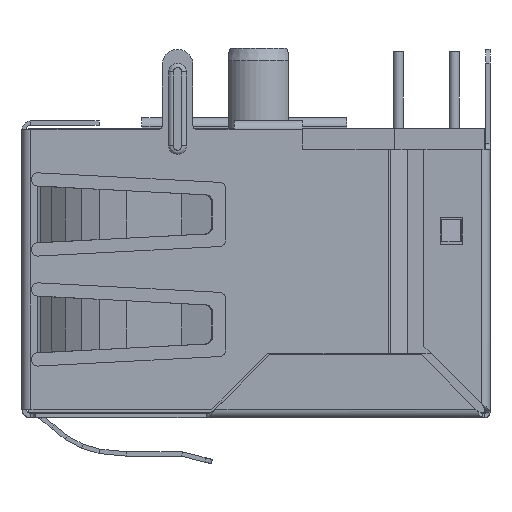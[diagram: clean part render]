
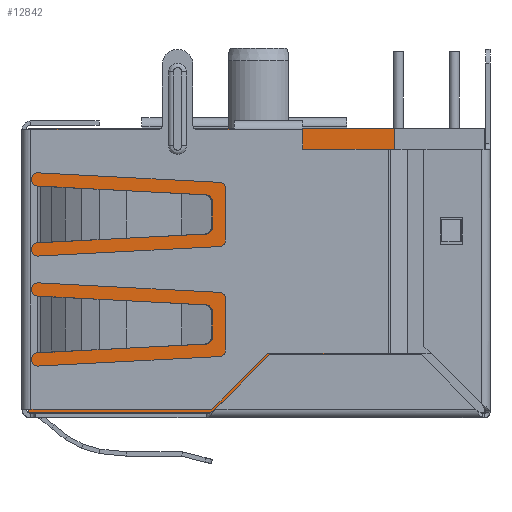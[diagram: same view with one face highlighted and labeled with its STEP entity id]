
A CAD part, front view. The second image highlights one B-rep face of the part: STEP entity #12842.
In plain terms, the highlighted planar face has unit normal (0, -1, 0).
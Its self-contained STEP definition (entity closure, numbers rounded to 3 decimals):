
#644=DIRECTION('',(0.,0.,1.));
#645=VECTOR('',#644,12.9);
#646=CARTESIAN_POINT('',(16.65,-0.59,-12.9));
#647=LINE('',#646,#645);
#648=DIRECTION('',(1.,0.,0.));
#649=VECTOR('',#648,16.65);
#650=CARTESIAN_POINT('',(0.,-0.59,-12.9));
#651=LINE('',#650,#649);
#652=DIRECTION('',(0.,0.,-1.));
#653=VECTOR('',#652,12.9);
#654=CARTESIAN_POINT('',(0.,-0.59,0.));
#655=LINE('',#654,#653);
#684=DIRECTION('',(1.,0.,0.));
#685=VECTOR('',#684,16.65);
#686=CARTESIAN_POINT('',(0.,-0.59,0.));
#687=LINE('',#686,#685);
#9113=CARTESIAN_POINT('',(0.,-0.59,-12.9));
#9115=VERTEX_POINT('',#9113);
#9117=CARTESIAN_POINT('',(0.,-0.59,0.));
#9118=VERTEX_POINT('',#9117);
#9205=CARTESIAN_POINT('',(16.65,-0.59,-12.9));
#9206=VERTEX_POINT('',#9205);
#9303=CARTESIAN_POINT('',(16.65,-0.59,0.));
#9304=VERTEX_POINT('',#9303);
#12830=CARTESIAN_POINT('',(8.325,-0.59,-6.45));
#12831=DIRECTION('',(0.,1.,0.));
#12832=DIRECTION('',(0.,0.,-1.));
#12833=AXIS2_PLACEMENT_3D('',#12830,#12831,#12832);
#12834=PLANE('',#12833);
#12835=ORIENTED_EDGE('',*,*,#12822,.F.);
#12836=ORIENTED_EDGE('',*,*,#12669,.F.);
#12837=ORIENTED_EDGE('',*,*,#12574,.F.);
#12839=ORIENTED_EDGE('',*,*,#12838,.T.);
#12840=EDGE_LOOP('',(#12835,#12836,#12837,#12839));
#12841=FACE_OUTER_BOUND('',#12840,.F.);
#12842=ADVANCED_FACE('',(#12841),#12834,.F.);
#12574=EDGE_CURVE('',#9118,#9115,#655,.T.);
#12669=EDGE_CURVE('',#9115,#9206,#651,.T.);
#12822=EDGE_CURVE('',#9206,#9304,#647,.T.);
#12838=EDGE_CURVE('',#9118,#9304,#687,.T.);
